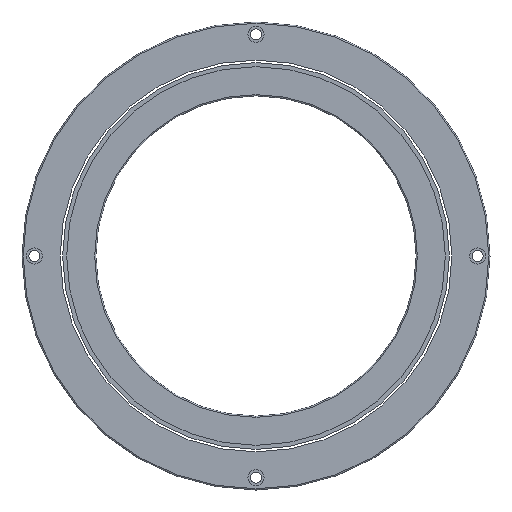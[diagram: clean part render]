
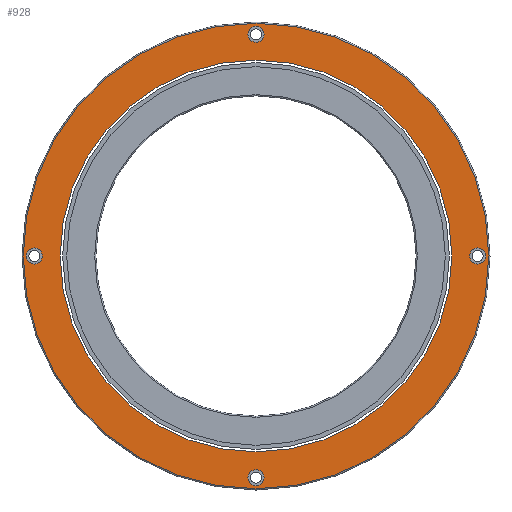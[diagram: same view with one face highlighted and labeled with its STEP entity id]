
A CAD part, front view. The second image highlights one B-rep face of the part: STEP entity #928.
In plain terms, the highlighted planar face has unit normal (0, -1, 0).
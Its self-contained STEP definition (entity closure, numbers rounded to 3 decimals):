
#43=CARTESIAN_POINT('',(0.,0.,0.));
#44=DIRECTION('',(0.,-1.,0.));
#45=DIRECTION('',(-1.,0.,0.));
#46=AXIS2_PLACEMENT_3D('',#43,#44,#45);
#48=CARTESIAN_POINT('',(0.,0.,0.));
#49=DIRECTION('',(0.,1.,0.));
#50=DIRECTION('',(-1.,0.,0.));
#51=AXIS2_PLACEMENT_3D('',#48,#49,#50);
#53=CARTESIAN_POINT('',(-90.,0.,0.));
#54=DIRECTION('',(0.,1.,0.));
#55=DIRECTION('',(1.,0.,0.));
#56=AXIS2_PLACEMENT_3D('',#53,#54,#55);
#58=CARTESIAN_POINT('',(-90.,0.,0.));
#59=DIRECTION('',(0.,1.,0.));
#60=DIRECTION('',(-1.,0.,0.));
#61=AXIS2_PLACEMENT_3D('',#58,#59,#60);
#63=CARTESIAN_POINT('',(0.,0.,90.));
#64=DIRECTION('',(0.,1.,0.));
#65=DIRECTION('',(0.,0.,-1.));
#66=AXIS2_PLACEMENT_3D('',#63,#64,#65);
#68=CARTESIAN_POINT('',(0.,0.,90.));
#69=DIRECTION('',(0.,1.,0.));
#70=DIRECTION('',(0.,0.,1.));
#71=AXIS2_PLACEMENT_3D('',#68,#69,#70);
#73=CARTESIAN_POINT('',(90.,0.,0.));
#74=DIRECTION('',(0.,1.,0.));
#75=DIRECTION('',(-1.,0.,0.));
#76=AXIS2_PLACEMENT_3D('',#73,#74,#75);
#78=CARTESIAN_POINT('',(90.,0.,0.));
#79=DIRECTION('',(0.,1.,0.));
#80=DIRECTION('',(1.,0.,0.));
#81=AXIS2_PLACEMENT_3D('',#78,#79,#80);
#83=CARTESIAN_POINT('',(0.,0.,-90.));
#84=DIRECTION('',(0.,1.,0.));
#85=DIRECTION('',(0.,0.,1.));
#86=AXIS2_PLACEMENT_3D('',#83,#84,#85);
#88=CARTESIAN_POINT('',(0.,0.,-90.));
#89=DIRECTION('',(0.,1.,0.));
#90=DIRECTION('',(0.,0.,-1.));
#91=AXIS2_PLACEMENT_3D('',#88,#89,#90);
#93=CARTESIAN_POINT('',(0.,0.,0.));
#94=DIRECTION('',(0.,1.,0.));
#95=DIRECTION('',(-1.,0.,0.));
#96=AXIS2_PLACEMENT_3D('',#93,#94,#95);
#98=CARTESIAN_POINT('',(0.,0.,0.));
#99=DIRECTION('',(0.,1.,0.));
#100=DIRECTION('',(1.,0.,0.));
#101=AXIS2_PLACEMENT_3D('',#98,#99,#100);
#751=CARTESIAN_POINT('',(-86.75,0.,0.));
#752=VERTEX_POINT('',#751);
#753=CARTESIAN_POINT('',(-93.25,0.,0.));
#754=VERTEX_POINT('',#753);
#763=CARTESIAN_POINT('',(0.,0.,86.75));
#764=VERTEX_POINT('',#763);
#765=CARTESIAN_POINT('',(0.,0.,93.25));
#766=VERTEX_POINT('',#765);
#775=CARTESIAN_POINT('',(86.75,0.,0.));
#776=VERTEX_POINT('',#775);
#777=CARTESIAN_POINT('',(93.25,0.,0.));
#778=VERTEX_POINT('',#777);
#787=CARTESIAN_POINT('',(0.,0.,-86.75));
#788=VERTEX_POINT('',#787);
#789=CARTESIAN_POINT('',(0.,0.,-93.25));
#790=VERTEX_POINT('',#789);
#808=CARTESIAN_POINT('',(-79.5,0.,0.));
#810=VERTEX_POINT('',#808);
#812=CARTESIAN_POINT('',(79.5,0.,0.));
#814=VERTEX_POINT('',#812);
#827=CARTESIAN_POINT('',(-94.5,0.,0.));
#828=CARTESIAN_POINT('',(94.5,0.,0.));
#829=VERTEX_POINT('',#827);
#830=VERTEX_POINT('',#828);
#889=CARTESIAN_POINT('',(0.,0.,0.));
#890=DIRECTION('',(0.,1.,0.));
#891=DIRECTION('',(1.,0.,0.));
#892=AXIS2_PLACEMENT_3D('',#889,#890,#891);
#893=PLANE('',#892);
#895=ORIENTED_EDGE('',*,*,#894,.T.);
#897=ORIENTED_EDGE('',*,*,#896,.T.);
#898=EDGE_LOOP('',(#895,#897));
#899=FACE_OUTER_BOUND('',#898,.F.);
#900=ORIENTED_EDGE('',*,*,#868,.F.);
#901=ORIENTED_EDGE('',*,*,#884,.F.);
#902=EDGE_LOOP('',(#900,#901));
#903=FACE_BOUND('',#902,.F.);
#905=ORIENTED_EDGE('',*,*,#904,.F.);
#907=ORIENTED_EDGE('',*,*,#906,.F.);
#908=EDGE_LOOP('',(#905,#907));
#909=FACE_BOUND('',#908,.F.);
#911=ORIENTED_EDGE('',*,*,#910,.F.);
#913=ORIENTED_EDGE('',*,*,#912,.F.);
#914=EDGE_LOOP('',(#911,#913));
#915=FACE_BOUND('',#914,.F.);
#917=ORIENTED_EDGE('',*,*,#916,.F.);
#919=ORIENTED_EDGE('',*,*,#918,.F.);
#920=EDGE_LOOP('',(#917,#919));
#921=FACE_BOUND('',#920,.F.);
#923=ORIENTED_EDGE('',*,*,#922,.T.);
#925=ORIENTED_EDGE('',*,*,#924,.F.);
#926=EDGE_LOOP('',(#923,#925));
#927=FACE_BOUND('',#926,.F.);
#47=CIRCLE('',#46,79.5);
#52=CIRCLE('',#51,79.5);
#57=CIRCLE('',#56,3.25);
#62=CIRCLE('',#61,3.25);
#67=CIRCLE('',#66,3.25);
#72=CIRCLE('',#71,3.25);
#77=CIRCLE('',#76,3.25);
#82=CIRCLE('',#81,3.25);
#87=CIRCLE('',#86,3.25);
#92=CIRCLE('',#91,3.25);
#97=CIRCLE('',#96,94.5);
#102=CIRCLE('',#101,94.5);
#868=EDGE_CURVE('',#752,#754,#57,.T.);
#884=EDGE_CURVE('',#754,#752,#62,.T.);
#894=EDGE_CURVE('',#829,#830,#97,.T.);
#896=EDGE_CURVE('',#830,#829,#102,.T.);
#904=EDGE_CURVE('',#764,#766,#67,.T.);
#906=EDGE_CURVE('',#766,#764,#72,.T.);
#910=EDGE_CURVE('',#776,#778,#77,.T.);
#912=EDGE_CURVE('',#778,#776,#82,.T.);
#916=EDGE_CURVE('',#788,#790,#87,.T.);
#918=EDGE_CURVE('',#790,#788,#92,.T.);
#922=EDGE_CURVE('',#810,#814,#47,.T.);
#924=EDGE_CURVE('',#810,#814,#52,.T.);
#928=ADVANCED_FACE('',(#899,#903,#909,#915,#921,#927),#893,.F.);
